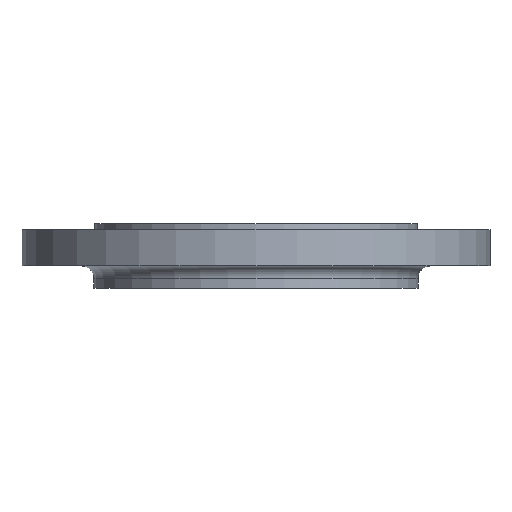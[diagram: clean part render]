
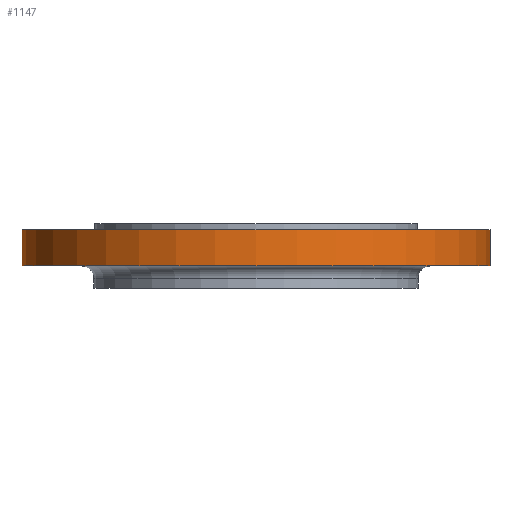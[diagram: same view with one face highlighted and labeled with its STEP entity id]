
A CAD part, front view. The second image highlights one B-rep face of the part: STEP entity #1147.
In plain terms, the highlighted cylindrical face has radius 187.5 mm (diameter 375 mm), a partial arc.
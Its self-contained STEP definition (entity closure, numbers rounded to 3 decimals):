
#7 = CARTESIAN_POINT ( 'NONE',  ( -187.5, 0., -5. ) ) ;
#92 = DIRECTION ( 'NONE',  ( -1., 0., 0. ) ) ;
#103 = LINE ( 'NONE', #701, #115 ) ;
#115 = VECTOR ( 'NONE', #1050, 1000. ) ;
#163 = CARTESIAN_POINT ( 'NONE',  ( 187.5, 0., -34. ) ) ;
#255 = DIRECTION ( 'NONE',  ( 0., 0., 1. ) ) ;
#256 = CARTESIAN_POINT ( 'NONE',  ( -187.5, 0., -98. ) ) ;
#257 = LINE ( 'NONE', #256, #998 ) ;
#265 = DIRECTION ( 'NONE',  ( 0., 0., 1. ) ) ;
#313 = AXIS2_PLACEMENT_3D ( 'NONE', #801, #1098, #92 ) ;
#315 = CARTESIAN_POINT ( 'NONE',  ( 187.5, 0., -5. ) ) ;
#467 = DIRECTION ( 'NONE',  ( 0., 0., 1. ) ) ;
#476 = EDGE_LOOP ( 'NONE', ( #597, #599, #600, #601 ) ) ;
#484 = VERTEX_POINT ( 'NONE', #315 ) ;
#567 = EDGE_CURVE ( 'NONE', #1372, #868, #257, .T. ) ;
#585 = FACE_OUTER_BOUND ( 'NONE', #476, .T. ) ;
#597 = ORIENTED_EDGE ( 'NONE', *, *, #567, .F. ) ;
#599 = ORIENTED_EDGE ( 'NONE', *, *, #1057, .T. ) ;
#600 = ORIENTED_EDGE ( 'NONE', *, *, #910, .T. ) ;
#601 = ORIENTED_EDGE ( 'NONE', *, *, #1048, .T. ) ;
#701 = CARTESIAN_POINT ( 'NONE',  ( 187.5, 0., -98. ) ) ;
#719 = VERTEX_POINT ( 'NONE', #163 ) ;
#765 = CIRCLE ( 'NONE', #931, 187.5 ) ;
#801 = CARTESIAN_POINT ( 'NONE',  ( 0., 0., -5. ) ) ;
#816 = DIRECTION ( 'NONE',  ( 1., 0., 0. ) ) ;
#868 = VERTEX_POINT ( 'NONE', #7 ) ;
#902 = CARTESIAN_POINT ( 'NONE',  ( -187.5, 0., -34. ) ) ;
#910 = EDGE_CURVE ( 'NONE', #719, #484, #103, .T. ) ;
#930 = DIRECTION ( 'NONE',  ( 1., 0., 0. ) ) ;
#931 = AXIS2_PLACEMENT_3D ( 'NONE', #1152, #265, #816 ) ;
#967 = CIRCLE ( 'NONE', #313, 187.5 ) ;
#992 = CYLINDRICAL_SURFACE ( 'NONE', #1247, 187.5 ) ;
#998 = VECTOR ( 'NONE', #255, 1000. ) ;
#1048 = EDGE_CURVE ( 'NONE', #484, #868, #967, .T. ) ;
#1050 = DIRECTION ( 'NONE',  ( 0., 0., 1. ) ) ;
#1057 = EDGE_CURVE ( 'NONE', #1372, #719, #765, .T. ) ;
#1098 = DIRECTION ( 'NONE',  ( 0., 0., -1. ) ) ;
#1147 = ADVANCED_FACE ( 'NONE', ( #585 ), #992, .T. ) ;
#1152 = CARTESIAN_POINT ( 'NONE',  ( 0., 0., -34. ) ) ;
#1247 = AXIS2_PLACEMENT_3D ( 'NONE', #1254, #467, #930 ) ;
#1254 = CARTESIAN_POINT ( 'NONE',  ( 0., 0., -98. ) ) ;
#1372 = VERTEX_POINT ( 'NONE', #902 ) ;
